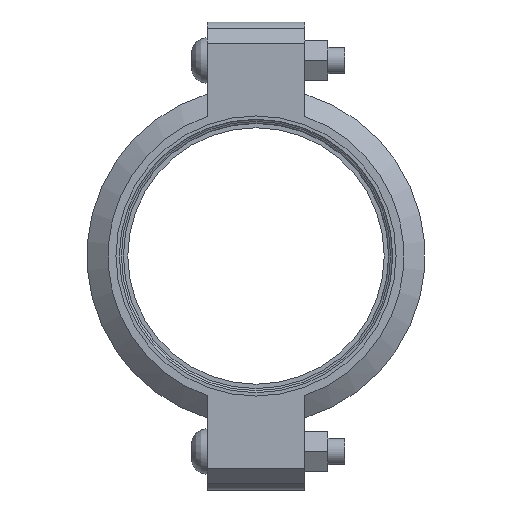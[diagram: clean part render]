
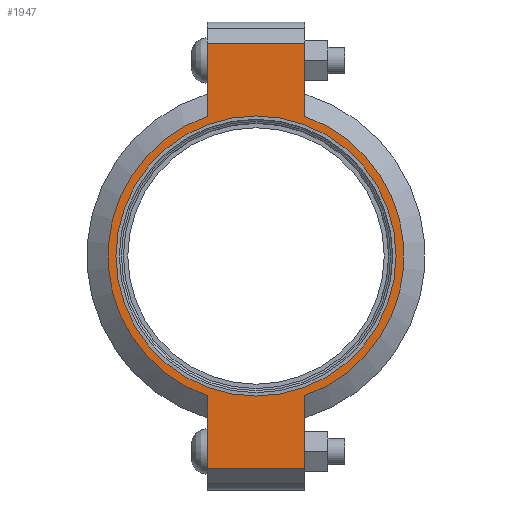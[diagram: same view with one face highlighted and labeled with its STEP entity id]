
A CAD part, left-side view. The second image highlights one B-rep face of the part: STEP entity #1947.
In plain terms, the highlighted planar face has unit normal (-1, 0, 0) as drawn and (0, 0, 1) by its records, which use the part's own axes.
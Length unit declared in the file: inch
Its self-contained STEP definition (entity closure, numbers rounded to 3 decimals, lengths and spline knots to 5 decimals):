
#136=LINE('',#3451,#233);
#144=LINE('',#3487,#241);
#151=LINE('',#3508,#248);
#160=LINE('',#3540,#257);
#161=LINE('',#3544,#258);
#162=LINE('',#3546,#259);
#233=VECTOR('',#2815,0.3937);
#241=VECTOR('',#2831,0.3937);
#248=VECTOR('',#2850,0.3937);
#257=VECTOR('',#2875,0.3937);
#258=VECTOR('',#2880,0.3937);
#259=VECTOR('',#2881,0.3937);
#315=FACE_BOUND('',#565,.T.);
#359=PLANE('',#2286);
#447=FACE_OUTER_BOUND('',#564,.T.);
#564=EDGE_LOOP('',(#1668,#1669,#1670,#1671,#1672,#1673,#1674,#1675));
#565=EDGE_LOOP('',(#1676));
#737=CIRCLE('',#2287,3.5);
#738=CIRCLE('',#2288,3.5);
#739=CIRCLE('',#2289,3.3125);
#901=VERTEX_POINT('',#3448);
#902=VERTEX_POINT('',#3450);
#913=VERTEX_POINT('',#3482);
#914=VERTEX_POINT('',#3486);
#921=VERTEX_POINT('',#3505);
#922=VERTEX_POINT('',#3507);
#932=VERTEX_POINT('',#3543);
#933=VERTEX_POINT('',#3545);
#934=VERTEX_POINT('',#3548);
#1146=EDGE_CURVE('',#902,#901,#136,.T.);
#1160=EDGE_CURVE('',#914,#913,#144,.T.);
#1170=EDGE_CURVE('',#922,#921,#151,.T.);
#1185=EDGE_CURVE('',#914,#901,#160,.T.);
#1186=EDGE_CURVE('',#913,#922,#737,.T.);
#1187=EDGE_CURVE('',#932,#921,#161,.T.);
#1188=EDGE_CURVE('',#932,#933,#162,.T.);
#1189=EDGE_CURVE('',#933,#902,#738,.T.);
#1190=EDGE_CURVE('',#934,#934,#739,.T.);
#1668=ORIENTED_EDGE('',*,*,#1185,.F.);
#1669=ORIENTED_EDGE('',*,*,#1160,.T.);
#1670=ORIENTED_EDGE('',*,*,#1186,.T.);
#1671=ORIENTED_EDGE('',*,*,#1170,.T.);
#1672=ORIENTED_EDGE('',*,*,#1187,.F.);
#1673=ORIENTED_EDGE('',*,*,#1188,.T.);
#1674=ORIENTED_EDGE('',*,*,#1189,.T.);
#1675=ORIENTED_EDGE('',*,*,#1146,.T.);
#1676=ORIENTED_EDGE('',*,*,#1190,.T.);
#1947=ADVANCED_FACE('',(#447,#315),#359,.T.);
#2286=AXIS2_PLACEMENT_3D('',#3541,#2876,#2877);
#2287=AXIS2_PLACEMENT_3D('',#3542,#2878,#2879);
#2288=AXIS2_PLACEMENT_3D('',#3547,#2882,#2883);
#2289=AXIS2_PLACEMENT_3D('',#3549,#2884,#2885);
#2815=DIRECTION('',(1.,0.,0.));
#2831=DIRECTION('',(-1.,0.,0.));
#2850=DIRECTION('',(-1.,0.,0.));
#2875=DIRECTION('',(0.,-1.,0.));
#2876=DIRECTION('center_axis',(0.,0.,1.));
#2877=DIRECTION('ref_axis',(-1.,0.,0.));
#2878=DIRECTION('center_axis',(0.,0.,1.));
#2879=DIRECTION('ref_axis',(1.,0.,0.));
#2880=DIRECTION('',(0.,1.,0.));
#2881=DIRECTION('',(1.,0.,0.));
#2882=DIRECTION('center_axis',(0.,0.,1.));
#2883=DIRECTION('ref_axis',(1.,0.,0.));
#2884=DIRECTION('center_axis',(0.,0.,-1.));
#2885=DIRECTION('ref_axis',(1.,0.,0.));
#3448=CARTESIAN_POINT('',(5.035,-1.156,1.065));
#3450=CARTESIAN_POINT('',(3.30358,-1.156,1.065));
#3451=CARTESIAN_POINT('',(5.535,-1.156,1.065));
#3482=CARTESIAN_POINT('',(3.30358,1.156,1.065));
#3486=CARTESIAN_POINT('',(5.035,1.156,1.065));
#3487=CARTESIAN_POINT('',(-5.535,1.156,1.065));
#3505=CARTESIAN_POINT('',(-5.035,1.156,1.065));
#3507=CARTESIAN_POINT('',(-3.30358,1.156,1.065));
#3508=CARTESIAN_POINT('',(-5.535,1.156,1.065));
#3540=CARTESIAN_POINT('',(5.035,-0.578,1.065));
#3541=CARTESIAN_POINT('Origin',(0.,0.,
1.065));
#3542=CARTESIAN_POINT('Origin',(0.,0.,1.065));
#3543=CARTESIAN_POINT('',(-5.035,-1.156,1.065));
#3544=CARTESIAN_POINT('',(-5.035,0.578,1.065));
#3545=CARTESIAN_POINT('',(-3.30358,-1.156,1.065));
#3546=CARTESIAN_POINT('',(5.535,-1.156,1.065));
#3547=CARTESIAN_POINT('Origin',(0.,0.,1.065));
#3548=CARTESIAN_POINT('',(-3.3125,0.,1.065));
#3549=CARTESIAN_POINT('Origin',(0.,0.,1.065));
